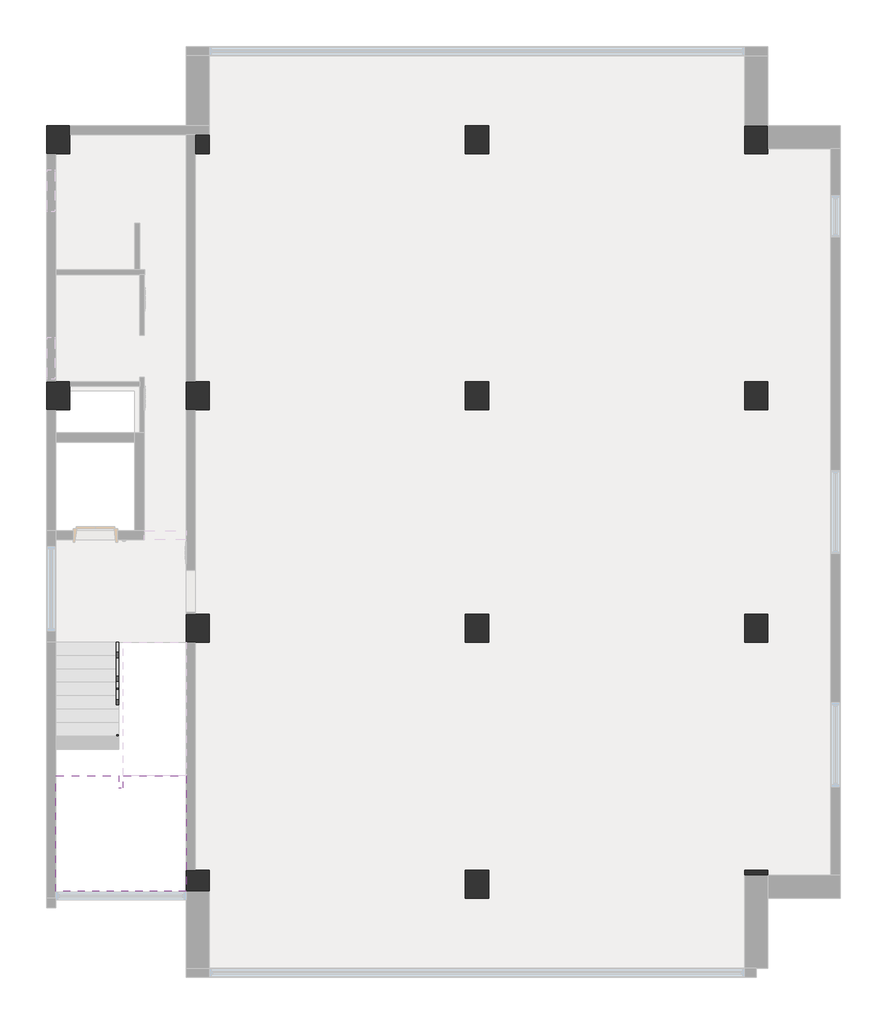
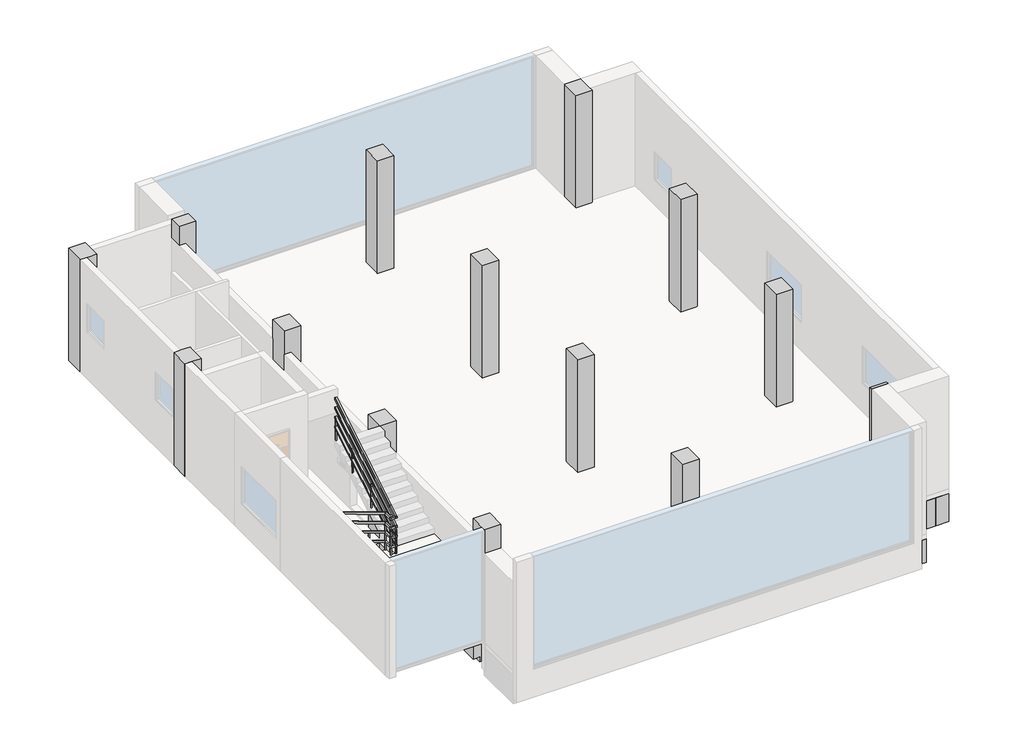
# One storey, part 2 of 3: 38 beams, 14 columns, 1 railing, 1 slab.
"""IFC4 building model written with IfcOpenShell, lengths in millimetres."""

from ifc_helpers import new_model, si_unit, frame, origin, place, context, project, spatial, polyline, outline, extrude, faceted_brep, transform, mapped, element, save
from components import railing_63d092a0

model = new_model("IFC4")

# Units and contexts
model_context = context("Model", 3, world=origin())
ifc_project = project(units=[si_unit("LENGTHUNIT", "METRE", prefix="MILLI")], contexts=[model_context])

# Site, building, storey
site = spatial("IfcSite", under=ifc_project)
building = spatial("IfcBuilding", under=site)
storey = spatial("IfcBuildingStorey", under=building, Name="2층", Elevation=3900.0)

# Beams
placement = place(None, origin())
element("IfcBeam", 1, ObjectType="BM100-구조 보 : BM100-구조 보 400x600", at=placement, inside=storey, context=model_context, shape_type="Brep", body=[
    faceted_brep([(3250.0, 100.0, 3750.0), (3250.0, -300.0, 3750.0), (8750.0, -300.0, 3750.0), (8750.0, 100.0, 3750.0), (5963.2625647, 100.0, 3750.0), (5663.2625647, 100.0, 3750.0), (3250.0, -300.0, 3150.0), (8750.0, -300.0, 3150.0), (3250.0, 100.0, 3150.0), (5663.2625647, 100.0, 3150.0), (5963.2625647, 100.0, 3150.0), (8750.0, 100.0, 3150.0)], [[[0, 1, 2, 3, 4, 5]], [[1, 6, 7, 2]], [[6, 8, 9, 10, 11, 7]], [[8, 0, 5, 4, 3, 11, 10, 9]], [[0, 8, 6, 1]], [[3, 2, 7, 11]]]),
])
element("IfcBeam", 2, ObjectType="BM100-구조 보 : BM100-구조 보 400x600", at=placement, inside=storey, context=model_context, shape_type="Brep", body=[
    faceted_brep([(14750.0, 100.0, 3750.0), (11963.2625647, 100.0, 3750.0), (11663.2625647, 100.0, 3750.0), (9250.0, 100.0, 3750.0), (9250.0, -300.0, 3750.0), (14750.0, -300.0, 3750.0), (14750.0, -300.0, 3150.0), (9250.0, -300.0, 3150.0), (9250.0, 100.0, 3150.0), (11663.2625647, 100.0, 3150.0), (11963.2625647, 100.0, 3150.0), (14750.0, 100.0, 3150.0)], [[[0, 1, 2, 3, 4, 5]], [[6, 5, 4, 7]], [[7, 8, 9, 10, 11, 6]], [[11, 10, 9, 8, 3, 2, 1, 0]], [[3, 8, 7, 4]], [[0, 5, 6, 11]]]),
])
element("IfcBeam", 3, ObjectType="BM100-구조 보 : BM100-구조 보 400x600", at=placement, inside=storey, context=model_context, shape_type="Brep", body=[
    faceted_brep([(14750.0, 5300.0, 3750.0), (14750.0, 5700.0, 3750.0), (11963.2625647, 5700.0, 3750.0), (11663.2625647, 5700.0, 3750.0), (9250.0, 5700.0, 3750.0), (9250.0, 5300.0, 3750.0), (11663.2625647, 5300.0, 3750.0), (11963.2625647, 5300.0, 3750.0), (14750.0, 5300.0, 3150.0), (9250.0, 5300.0, 3150.0), (11663.2625647, 5300.0, 3150.0), (11963.2625647, 5300.0, 3150.0), (14750.0, 5700.0, 3150.0), (9250.0, 5700.0, 3150.0), (11663.2625647, 5700.0, 3150.0), (11963.2625647, 5700.0, 3150.0)], [[[0, 1, 2, 3, 4, 5, 6, 7]], [[8, 0, 7, 6, 5, 9, 10, 11]], [[12, 8, 11, 10, 9, 13, 14, 15]], [[1, 12, 15, 14, 13, 4, 3, 2]], [[1, 0, 8, 12]], [[4, 13, 9, 5]]]),
])
element("IfcBeam", 4, ObjectType="BM100-구조 보 : BM100-구조 보 400x600", at=placement, inside=storey, context=model_context, shape_type="Brep", body=[
    faceted_brep([(14750.0, 10300.0, 3750.0), (14750.0, 10700.0, 3750.0), (11963.2625647, 10700.0, 3750.0), (11663.2625647, 10700.0, 3750.0), (9250.0, 10700.0, 3750.0), (9250.0, 10300.0, 3750.0), (11663.2625647, 10300.0, 3750.0), (11963.2625647, 10300.0, 3750.0), (14750.0, 10300.0, 3150.0), (9250.0, 10300.0, 3150.0), (11663.2625647, 10300.0, 3150.0), (11963.2625647, 10300.0, 3150.0), (14750.0, 10700.0, 3150.0), (9250.0, 10700.0, 3150.0), (11663.2625647, 10700.0, 3150.0), (11963.2625647, 10700.0, 3150.0)], [[[0, 1, 2, 3, 4, 5, 6, 7]], [[8, 0, 7, 6, 5, 9, 10, 11]], [[12, 8, 11, 10, 9, 13, 14, 15]], [[1, 12, 15, 14, 13, 4, 3, 2]], [[1, 0, 8, 12]], [[4, 13, 9, 5]]]),
])
element("IfcBeam", 5, ObjectType="BM100-구조 보 : BM100-구조 보 400x600", at=placement, inside=storey, context=model_context, shape_type="Brep", body=[
    faceted_brep([(9250.0, 16300.0, 3750.0), (9250.0, 15900.0, 3750.0), (11663.2625647, 15900.0, 3750.0), (11963.2625647, 15900.0, 3750.0), (14750.0, 15900.0, 3750.0), (14750.0, 16300.0, 3750.0), (9250.0, 15900.0, 3150.0), (11663.2625647, 15900.0, 3150.0), (11963.2625647, 15900.0, 3150.0), (14750.0, 15900.0, 3150.0), (9250.0, 16300.0, 3150.0), (14750.0, 16300.0, 3150.0)], [[[0, 1, 2, 3, 4, 5]], [[6, 7, 8, 9, 4, 3, 2, 1]], [[9, 8, 7, 6, 10, 11]], [[5, 11, 10, 0]], [[5, 4, 9, 11]], [[0, 10, 6, 1]]]),
])
element("IfcBeam", 6, ObjectType="BM100-구조 보 : BM100-구조 보 400x600", at=placement, inside=storey, context=model_context, shape_type="SweptSolid", body=[
    extrude(outline(polyline([(15250.0, 5800.0), (14850.0, 5800.0), (14850.0, 10200.0), (15250.0, 10200.0), (15250.0, 5800.0)])), frame((0.0, 0.0, 3150.0), z_axis=(0.0, 0.0, 1.0), x_axis=(1.0, 0.0, 0.0)), (0.0, 0.0, 1.0), 600.0),
])
element("IfcBeam", 7, ObjectType="BM100-구조 보 : BM100-구조 보 400x600", at=placement, inside=storey, context=model_context, shape_type="SweptSolid", body=[
    extrude(outline(polyline([(15250.0, 5200.0), (15250.0, 300.0), (14850.0, 300.0), (14850.0, 5200.0), (15250.0, 5200.0)])), frame((0.0, 0.0, 3150.0), z_axis=(0.0, 0.0, 1.0), x_axis=(1.0, 0.0, 0.0)), (0.0, 0.0, 1.0), 600.0),
])
element("IfcBeam", 8, ObjectType="BM100-구조 보 : BM100-구조 보 300x600", at=placement, inside=storey, context=model_context, shape_type="SweptSolid", body=[
    extrude(outline(polyline([(11663.2625647, 5300.0), (11963.2625647, 5300.0), (11963.2625647, 100.0), (11663.2625647, 100.0), (11663.2625647, 5300.0)])), frame((0.0, 0.0, 3150.0), z_axis=(0.0, 0.0, 1.0), x_axis=(1.0, 0.0, 0.0)), (0.0, 0.0, 1.0), 600.0),
])
element("IfcBeam", 9, ObjectType="BM100-구조 보 : BM100-구조 보 300x600", at=placement, inside=storey, context=model_context, shape_type="SweptSolid", body=[
    extrude(outline(polyline([(11963.2625647, 5700.0), (11663.2625647, 5700.0), (11663.2625647, 10300.0), (11963.2625647, 10300.0), (11963.2625647, 5700.0)])), frame((0.0, 0.0, 3150.0), z_axis=(0.0, 0.0, 1.0), x_axis=(1.0, 0.0, 0.0)), (0.0, 0.0, 1.0), 600.0),
])
element("IfcBeam", 10, ObjectType="BM100-구조 보 : BM100-구조 보 300x600", at=placement, inside=storey, context=model_context, shape_type="SweptSolid", body=[
    extrude(outline(polyline([(11963.2625647, 10700.0), (11663.2625647, 10700.0), (11663.2625647, 15900.0), (11963.2625647, 15900.0), (11963.2625647, 10700.0)])), frame((0.0, 0.0, 3150.0), z_axis=(0.0, 0.0, 1.0), x_axis=(1.0, 0.0, 0.0)), (0.0, 0.0, 1.0), 600.0),
])
element("IfcBeam", 11, ObjectType="BM100-구조 보 : BM100-구조 보 400x900", at=placement, inside=storey, context=model_context, shape_type="SweptSolid", body=[
    extrude(outline(polyline([(9250.0, 300.0), (8850.0, 300.0), (8850.0, 5200.0), (9250.0, 5200.0), (9250.0, 300.0)])), frame((0.0, 0.0, 2850.0), z_axis=(0.0, 0.0, 1.0), x_axis=(1.0, 0.0, 0.0)), (0.0, 0.0, 1.0), 900.0),
])
element("IfcBeam", 12, ObjectType="BM100-구조 보 : BM100-구조 보 400x900", at=placement, inside=storey, context=model_context, shape_type="SweptSolid", body=[
    extrude(outline(polyline([(9250.0, 5800.0), (8850.0, 5800.0), (8850.0, 10200.0), (9250.0, 10200.0), (9250.0, 5800.0)])), frame((0.0, 0.0, 2850.0), z_axis=(0.0, 0.0, 1.0), x_axis=(1.0, 0.0, 0.0)), (0.0, 0.0, 1.0), 900.0),
])
element("IfcBeam", 13, ObjectType="BM100-구조 보 : BM100-구조 보 400x900", at=placement, inside=storey, context=model_context, shape_type="SweptSolid", body=[
    extrude(outline(polyline([(9250.0, 10800.0), (8850.0, 10800.0), (8850.0, 15700.0), (9250.0, 15700.0), (9250.0, 10800.0)])), frame((0.0, 0.0, 2850.0), z_axis=(0.0, 0.0, 1.0), x_axis=(1.0, 0.0, 0.0)), (0.0, 0.0, 1.0), 900.0),
])
element("IfcBeam", 14, ObjectType="BM100-구조 보 : BM100-구조 보 400x900", at=placement, inside=storey, context=model_context, shape_type="Brep", body=[
    faceted_brep([(2750.0, 5800.0, 3750.0), (3150.0, 5800.0, 3750.0), (3150.0, 10200.0, 3750.0), (2750.0, 10200.0, 3750.0), (2750.0, 7600.0, 3750.0), (2850.0, 7600.0, 3750.0), (2850.0, 7400.0, 3750.0), (2750.0, 7400.0, 3750.0), (3150.0, 5800.0, 2850.0), (3150.0, 10200.0, 2850.0), (2750.0, 5800.0, 2850.0), (2750.0, 10200.0, 2850.0), (2750.0, 7400.0, 3300.0), (2750.0, 7600.0, 3300.0), (2850.0, 7600.0, 3300.0), (2850.0, 7400.0, 3300.0)], [[[0, 1, 2, 3, 4, 5, 6, 7]], [[1, 8, 9, 2]], [[8, 10, 11, 9]], [[10, 0, 7, 12, 13, 4, 3, 11]], [[14, 5, 4, 13]], [[15, 12, 7, 6]], [[15, 14, 13, 12]], [[14, 15, 6, 5]], [[1, 0, 10, 8]], [[3, 2, 9, 11]]]),
])
element("IfcBeam", 15, ObjectType="BM100-구조 보 : BM100-구조 보 400x900", at=placement, inside=storey, context=model_context, shape_type="SweptSolid", body=[
    extrude(outline(polyline([(3750.0, 3150.0), (3750.0, 2750.0), (3000.0, 2750.0), (3000.0, 2950.0), (2850.0, 2950.0), (2850.0, 3150.0), (3750.0, 3150.0)])), frame((0.0, 300.0, 0.0), z_axis=(0.0, 1.0, 0.0), x_axis=(0.0, 0.0, 1.0)), (0.0, 0.0, 1.0), 4900.0),
])
element("IfcBeam", 16, ObjectType="BM100-구조 보 : BM100-구조 보 400x900", at=placement, inside=storey, context=model_context, shape_type="Brep", body=[
    faceted_brep([(2750.0, 10800.0, 3750.0), (3150.0, 10800.0, 3750.0), (3150.0, 15700.0, 3750.0), (2750.0, 15700.0, 3750.0), (2750.0, 13200.0, 3750.0), (2750.0, 13100.0, 3750.0), (3150.0, 10800.0, 2850.0), (3150.0, 15700.0, 2850.0), (2750.0, 10800.0, 2850.0), (2750.0, 15700.0, 2850.0)], [[[0, 1, 2, 3, 4, 5]], [[1, 6, 7, 2]], [[6, 8, 9, 7]], [[8, 0, 5, 4, 3, 9]], [[1, 0, 8, 6]], [[3, 2, 7, 9]]]),
])
element("IfcBeam", 17, ObjectType="BM100-구조 보 : BM100-구조 보 400x600", at=placement, inside=storey, context=model_context, shape_type="Brep", body=[
    faceted_brep([(8750.0, 5300.0, 3750.0), (8750.0, 5700.0, 3750.0), (5963.2625647, 5700.0, 3750.0), (5663.2625647, 5700.0, 3750.0), (3250.0, 5700.0, 3750.0), (3250.0, 5300.0, 3750.0), (5663.2625647, 5300.0, 3750.0), (5963.2625647, 5300.0, 3750.0), (8750.0, 5300.0, 3150.0), (3250.0, 5300.0, 3150.0), (5663.2625647, 5300.0, 3150.0), (5963.2625647, 5300.0, 3150.0), (8750.0, 5700.0, 3150.0), (3250.0, 5700.0, 3150.0), (5663.2625647, 5700.0, 3150.0), (5963.2625647, 5700.0, 3150.0)], [[[0, 1, 2, 3, 4, 5, 6, 7]], [[8, 0, 7, 6, 5, 9, 10, 11]], [[12, 8, 11, 10, 9, 13, 14, 15]], [[1, 12, 15, 14, 13, 4, 3, 2]], [[1, 0, 8, 12]], [[5, 4, 13, 9]]]),
])
element("IfcBeam", 18, ObjectType="BM100-구조 보 : BM100-구조 보 400x600", at=placement, inside=storey, context=model_context, shape_type="Brep", body=[
    faceted_brep([(8750.0, 10300.0, 3750.0), (8750.0, 10700.0, 3750.0), (5963.2625647, 10700.0, 3750.0), (5663.2625647, 10700.0, 3750.0), (3250.0, 10700.0, 3750.0), (3250.0, 10300.0, 3750.0), (5663.2625647, 10300.0, 3750.0), (5963.2625647, 10300.0, 3750.0), (8750.0, 10300.0, 3150.0), (3250.0, 10300.0, 3150.0), (5663.2625647, 10300.0, 3150.0), (5963.2625647, 10300.0, 3150.0), (8750.0, 10700.0, 3150.0), (3250.0, 10700.0, 3150.0), (5663.2625647, 10700.0, 3150.0), (5963.2625647, 10700.0, 3150.0)], [[[0, 1, 2, 3, 4, 5, 6, 7]], [[8, 0, 7, 6, 5, 9, 10, 11]], [[12, 8, 11, 10, 9, 13, 14, 15]], [[1, 12, 15, 14, 13, 4, 3, 2]], [[1, 0, 8, 12]], [[5, 4, 13, 9]]]),
])
element("IfcBeam", 19, ObjectType="BM100-구조 보 : BM100-구조 보 300x600", at=placement, inside=storey, context=model_context, shape_type="SweptSolid", body=[
    extrude(outline(polyline([(5663.2625647, 5300.0), (5963.2625647, 5300.0), (5963.2625647, 100.0), (5663.2625647, 100.0), (5663.2625647, 5300.0)])), frame((0.0, 0.0, 3150.0), z_axis=(0.0, 0.0, 1.0), x_axis=(1.0, 0.0, 0.0)), (0.0, 0.0, 1.0), 600.0),
])
element("IfcBeam", 20, ObjectType="BM100-구조 보 : BM100-구조 보 300x600", at=placement, inside=storey, context=model_context, shape_type="SweptSolid", body=[
    extrude(outline(polyline([(5963.2625647, 5700.0), (5663.2625647, 5700.0), (5663.2625647, 10300.0), (5963.2625647, 10300.0), (5963.2625647, 5700.0)])), frame((0.0, 0.0, 3150.0), z_axis=(0.0, 0.0, 1.0), x_axis=(1.0, 0.0, 0.0)), (0.0, 0.0, 1.0), 600.0),
])
element("IfcBeam", 21, ObjectType="BM100-구조 보 : BM100-구조 보 300x600", at=placement, inside=storey, context=model_context, shape_type="SweptSolid", body=[
    extrude(outline(polyline([(5963.2625647, 10700.0), (5663.2625647, 10700.0), (5663.2625647, 15900.0), (5963.2625647, 15900.0), (5963.2625647, 10700.0)])), frame((0.0, 0.0, 3150.0), z_axis=(0.0, 0.0, 1.0), x_axis=(1.0, 0.0, 0.0)), (0.0, 0.0, 1.0), 600.0),
])
element("IfcBeam", 22, ObjectType="BM100-구조 보 : BM100-구조 보 400x600", at=placement, inside=storey, context=model_context, shape_type="Brep", body=[
    faceted_brep([(3250.0, 16300.0, 3750.0), (3250.0, 15900.0, 3750.0), (5663.2625647, 15900.0, 3750.0), (5963.2625647, 15900.0, 3750.0), (8750.0, 15900.0, 3750.0), (8750.0, 16300.0, 3750.0), (3250.0, 15900.0, 3150.0), (5663.2625647, 15900.0, 3150.0), (5963.2625647, 15900.0, 3150.0), (8750.0, 15900.0, 3150.0), (3250.0, 16300.0, 3150.0), (8750.0, 16300.0, 3150.0)], [[[0, 1, 2, 3, 4, 5]], [[1, 6, 7, 8, 9, 4, 3, 2]], [[6, 10, 11, 9, 8, 7]], [[10, 0, 5, 11]], [[0, 10, 6, 1]], [[5, 4, 9, 11]]]),
])
element("IfcBeam", 23, ObjectType="BM100-구조 보 : BM100-구조 보 400x600", at=placement, inside=storey, context=model_context, shape_type="SweptSolid", body=[
    extrude(outline(polyline([(14850.0, 15700.0), (15250.0, 15700.0), (15250.0, 10800.0), (14850.0, 10800.0), (14850.0, 15700.0)])), frame((0.0, 0.0, 3150.0), z_axis=(0.0, 0.0, 1.0), x_axis=(1.0, 0.0, 0.0)), (0.0, 0.0, 1.0), 600.0),
])
element("IfcBeam", 24, ObjectType="BM100-구조 보 : BM100-구조 보 400x900", at=placement, inside=storey, context=model_context, shape_type="Brep", body=[
    faceted_brep([(9250.0, -300.0, 3750.0), (8850.0, -300.0, 3750.0), (8850.0, -1400.0, 3750.0), (9250.0, -1800.0, 3750.0), (9250.0, -1400.0, 3750.0), (9250.0, -300.0, 2850.0), (9250.0, -1800.0, 2850.0), (8850.0, -300.0, 2850.0), (8850.0, -1400.0, 2850.0)], [[[0, 1, 2, 3, 4]], [[5, 0, 4, 3, 6]], [[7, 5, 6, 8]], [[1, 7, 8, 2]], [[1, 0, 5, 7]], [[2, 8, 6, 3]]]),
])
element("IfcBeam", 25, ObjectType="BM100-구조 보 : BM100-구조 보 400x900", at=placement, inside=storey, context=model_context, shape_type="Brep", body=[
    faceted_brep([(14821.5298193, -1400.0, 2994.1216086), (14802.9411221, -1400.0, 3750.0), (14799.4035473, -1400.0, 3893.8495831), (14799.4035473, -1800.0, 3893.8495831), (14802.9411221, -1800.0, 3750.0), (14821.5298193, -1800.0, 2994.1216086), (9050.0, -1400.0, 3752.459218), (9050.0, -1800.0, 3752.459218), (9050.0, -1800.0, 3750.0), (9250.0, -1800.0, 3750.0), (9250.0, -1800.0, 2857.1055462), (9250.0, -1400.0, 2857.1055462), (9250.0, -1400.0, 3750.0), (9050.0, -1400.0, 3750.0)], [[[0, 1, 2, 3, 4, 5]], [[3, 2, 6, 7]], [[5, 4, 3, 7, 8, 9, 10]], [[0, 5, 10, 11]], [[2, 1, 0, 11, 12, 13, 6]], [[9, 8, 13, 12]], [[9, 12, 11, 10]], [[7, 6, 13, 8]]]),
])
element("IfcBeam", 26, ObjectType="BM100-구조 보 : BM100-구조 보 400x900", at=placement, inside=storey, context=model_context, shape_type="SweptSolid", body=[
    extrude(outline(polyline([(14849.5, -1800.0), (14849.5, -305.5), (15249.5, -305.5), (15249.5, -1800.0), (14849.5, -1800.0)])), frame((0.0, 0.0, 3000.0), z_axis=(0.0, 0.0, 1.0), x_axis=(1.0, 0.0, 0.0)), (0.0, 0.0, 1.0), 750.0),
])
element("IfcBeam", 27, ObjectType="BM100-구조 보 : BM100-구조 보 400x900", at=placement, inside=storey, context=model_context, shape_type="Brep", body=[
    faceted_brep([(16800.0, 5700.0, 3750.0), (16400.0, 5700.0, 3750.0), (16400.0, 5300.0, 3750.0), (16400.0, 100.0, 3750.0), (16400.0, -300.0, 3750.0), (16800.0, -300.0, 3750.0), (16400.0, 5700.0, 3150.0), (16400.0, 5700.0, 2850.0), (16400.0, 100.0, 2850.0), (16400.0, -300.0, 2850.0), (16800.0, 5700.0, 2850.0), (16800.0, -300.0, 2850.0)], [[[0, 1, 2, 3, 4, 5]], [[1, 6, 7, 8, 9, 4, 3, 2]], [[7, 10, 11, 9, 8]], [[10, 0, 5, 11]], [[5, 4, 9, 11]], [[1, 0, 10, 7, 6]]]),
])
element("IfcBeam", 28, ObjectType="BM100-구조 보 : BM100-구조 보 400x900", at=placement, inside=storey, context=model_context, shape_type="SweptSolid", body=[
    extrude(outline(polyline([(15250.0, -300.0), (15250.0, 100.0), (16400.0, 100.0), (16400.0, -300.0), (15250.0, -300.0)])), frame((0.0, 0.0, 2850.0), z_axis=(0.0, 0.0, 1.0), x_axis=(1.0, 0.0, 0.0)), (0.0, 0.0, 1.0), 900.0),
])
element("IfcBeam", 29, ObjectType="BM100-구조 보 : BM100-구조 보 400x600", at=placement, inside=storey, context=model_context, shape_type="SweptSolid", body=[
    extrude(outline(polyline([(15250.0, 5300.0), (15250.0, 5700.0), (16400.0, 5700.0), (16400.0, 5300.0), (15250.0, 5300.0)])), frame((0.0, 0.0, 3150.0), z_axis=(0.0, 0.0, 1.0), x_axis=(1.0, 0.0, 0.0)), (0.0, 0.0, 1.0), 600.0),
])
element("IfcBeam", 30, ObjectType="BM100-구조 보 : BM100-구조 보 400x600", at=placement, inside=storey, context=model_context, shape_type="SweptSolid", body=[
    extrude(outline(polyline([(15250.0, 10300.0), (15250.0, 10700.0), (16400.0, 10700.0), (16400.0, 10300.0), (15250.0, 10300.0)])), frame((0.0, 0.0, 3150.0), z_axis=(0.0, 0.0, 1.0), x_axis=(1.0, 0.0, 0.0)), (0.0, 0.0, 1.0), 600.0),
])
element("IfcBeam", 31, ObjectType="BM100-구조 보 : BM100-구조 보 400x900", at=placement, inside=storey, context=model_context, shape_type="Brep", body=[
    faceted_brep([(16800.0, 15900.0, 3750.0), (16800.0, 16300.0, 3750.0), (15250.0, 16300.0, 3750.0), (15250.0, 15900.0, 3750.0), (16400.0, 15900.0, 3750.0), (16800.0, 15900.0, 2850.0), (15250.0, 15900.0, 2850.0), (16400.0, 15900.0, 2850.0), (16800.0, 16300.0, 2850.0), (15250.0, 16300.0, 2850.0)], [[[0, 1, 2, 3, 4]], [[5, 0, 4, 3, 6, 7]], [[8, 5, 7, 6, 9]], [[1, 8, 9, 2]], [[3, 2, 9, 6]], [[1, 0, 5, 8]]]),
])
element("IfcBeam", 32, ObjectType="BM100-구조 보 : BM100-구조 보 400x900", at=placement, inside=storey, context=model_context, shape_type="Brep", body=[
    faceted_brep([(16800.0, 10700.0, 3750.0), (16400.0, 10700.0, 3750.0), (16400.0, 10300.0, 3750.0), (16400.0, 5700.0, 3750.0), (16800.0, 5700.0, 3750.0), (16400.0, 10700.0, 3150.0), (16400.0, 10700.0, 2850.0), (16400.0, 5700.0, 2850.0), (16800.0, 10700.0, 2850.0), (16800.0, 5700.0, 2850.0)], [[[0, 1, 2, 3, 4]], [[1, 5, 6, 7, 3, 2]], [[6, 8, 9, 7]], [[8, 0, 4, 9]], [[1, 0, 8, 6, 5]], [[4, 3, 7, 9]]]),
])
element("IfcBeam", 33, ObjectType="BM100-구조 보 : BM100-구조 보 400x900", at=placement, inside=storey, context=model_context, shape_type="SweptSolid", body=[
    extrude(outline(polyline([(15900.0, 2850.0), (10300.0, 2850.0), (10300.0, 3150.0), (10700.0, 3150.0), (10700.0, 3750.0), (15900.0, 3750.0), (15900.0, 2850.0)])), frame((16400.0, 0.0, 0.0), z_axis=(1.0, 0.0, 0.0), x_axis=(0.0, 1.0, 0.0)), (0.0, 0.0, 1.0), 400.0),
])
element("IfcBeam", 34, ObjectType="BM100-구조 보 : BM100-구조 보 400x900", at=placement, inside=storey, context=model_context, shape_type="Brep", body=[
    faceted_brep([(3150.0, 17800.0, 3750.0), (2750.0, 17800.0, 3750.0), (2750.0, 16300.0, 3750.0), (2950.0, 16300.0, 3750.0), (3150.0, 16300.0, 3750.0), (3150.0, 17400.0, 3750.0), (3150.0, 17800.0, 2850.0), (3150.0, 16300.0, 2850.0), (3150.0, 17400.0, 2850.0), (2750.0, 17800.0, 2850.0), (2750.0, 16300.0, 2850.0)], [[[0, 1, 2, 3, 4, 5]], [[6, 0, 5, 4, 7, 8]], [[9, 6, 8, 7, 10]], [[1, 9, 10, 2]], [[1, 0, 6, 9]], [[4, 3, 2, 10, 7]]]),
])
element("IfcBeam", 35, ObjectType="BM100-구조 보 : BM100-구조 보 400x900", at=placement, inside=storey, context=model_context, shape_type="Brep", body=[
    faceted_brep([(9250.0, 17400.0, 3750.0), (9250.0, 17800.0, 3750.0), (3150.0, 17800.0, 3750.0), (3150.0, 17400.0, 3750.0), (8850.0, 17400.0, 3750.0), (9250.0, 17800.0, 2850.0), (3150.0, 17800.0, 2850.0), (9250.0, 17400.0, 2850.0), (8850.0, 17400.0, 2850.0), (3150.0, 17400.0, 2850.0)], [[[0, 1, 2, 3, 4]], [[1, 5, 6, 2]], [[5, 7, 8, 9, 6]], [[7, 0, 4, 3, 9, 8]], [[1, 0, 7, 5]], [[3, 2, 6, 9]]]),
])
element("IfcBeam", 36, ObjectType="BM100-구조 보 : BM100-구조 보 400x900", at=placement, inside=storey, context=model_context, shape_type="SweptSolid", body=[
    extrude(outline(polyline([(8850.0, 17400.0), (9250.0, 17400.0), (9250.0, 16300.0), (8850.0, 16300.0), (8850.0, 17400.0)])), frame((0.0, 0.0, 2850.0), z_axis=(0.0, 0.0, 1.0), x_axis=(1.0, 0.0, 0.0)), (0.0, 0.0, 1.0), 900.0),
])
element("IfcBeam", 37, ObjectType="BM100-구조 보 : BM100-구조 보 400x900", at=placement, inside=storey, context=model_context, shape_type="Brep", body=[
    faceted_brep([(15250.0, 17400.0, 3750.0), (15250.0, 17800.0, 3750.0), (9250.0, 17800.0, 3750.0), (9250.0, 17400.0, 3750.0), (14850.0, 17400.0, 3750.0), (15250.0, 17800.0, 2850.0), (9250.0, 17800.0, 2850.0), (15250.0, 17400.0, 2850.0), (14850.0, 17400.0, 2850.0), (9250.0, 17400.0, 2850.0)], [[[0, 1, 2, 3, 4]], [[1, 5, 6, 2]], [[5, 7, 8, 9, 6]], [[7, 0, 4, 3, 9, 8]], [[1, 0, 7, 5]], [[3, 2, 6, 9]]]),
])
element("IfcBeam", 38, ObjectType="BM100-구조 보 : BM100-구조 보 400x900", at=placement, inside=storey, context=model_context, shape_type="SweptSolid", body=[
    extrude(outline(polyline([(15250.0, 16300.0), (14850.0, 16300.0), (14850.0, 17400.0), (15250.0, 17400.0), (15250.0, 16300.0)])), frame((0.0, 0.0, 2850.0), z_axis=(0.0, 0.0, 1.0), x_axis=(1.0, 0.0, 0.0)), (0.0, 0.0, 1.0), 900.0),
])

# Columns
element("IfcColumn", 39, ObjectType="CL100-구조 기둥 : CL100-구조 기둥_500x600", at=placement, inside=storey, context=model_context, shape_type="Brep", body=[
    faceted_brep([(-250.0, 10200.0, 3900.0), (-250.0, 10800.0, 3900.0), (-50.0, 10800.0, 3900.0), (250.0, 10800.0, 3900.0), (250.0, 10700.0, 3900.0), (250.0, 10200.0, 3900.0), (-50.0, 10200.0, 3900.0), (-250.0, 10200.0, 7500.0), (-250.0, 10800.0, 7500.0), (-50.0, 10800.0, 7500.0), (250.0, 10800.0, 7500.0), (250.0, 10800.0, 7350.0), (250.0, 10700.0, 7500.0), (250.0, 10200.0, 7500.0), (-50.0, 10200.0, 7500.0)], [[[0, 1, 2, 3, 4, 5, 6]], [[7, 8, 1, 0]], [[8, 9, 10, 11, 3, 2, 1]], [[10, 12, 13, 5, 4, 3, 11]], [[13, 14, 7, 0, 6, 5]], [[7, 14, 13, 12, 10, 9, 8]]]),
])
element("IfcColumn", 40, ObjectType="CL100-구조 기둥 : CL100-구조 기둥_500x600", at=placement, inside=storey, context=model_context, shape_type="Brep", body=[
    faceted_brep([(2750.0, 300.0, 3900.0), (2950.0, 300.0, 3900.0), (3250.0, 300.0, 3900.0), (3250.0, -150.0, 3900.0), (2750.0, -150.0, 3900.0), (2750.0, -300.0, 7500.0), (2750.0, 300.0, 7500.0), (2750.0, 300.0, 7350.0), (2750.0, 300.0, 6900.0), (2750.0, -150.0, 6750.0), (2750.0, -300.0, 6750.0), (2750.0, -300.0, 7350.0), (3250.0, 300.0, 7500.0), (3250.0, 300.0, 7350.0), (3250.0, -300.0, 7500.0), (3250.0, -300.0, 7350.0), (3250.0, -300.0, 6750.0), (3250.0, -150.0, 6750.0)], [[[0, 1, 2, 3, 4]], [[5, 6, 7, 8, 0, 4, 9, 10, 11]], [[2, 1, 0, 8, 7, 6, 12, 13]], [[2, 13, 12, 14, 15, 16, 17, 3]], [[14, 5, 11, 10, 16, 15]], [[6, 5, 14, 12]], [[9, 17, 16, 10]], [[17, 9, 4, 3]]]),
])
element("IfcColumn", 41, ObjectType="CL100-구조 기둥 : CL100-구조 기둥_500x600", at=placement, inside=storey, context=model_context, shape_type="Brep", body=[
    faceted_brep([(8750.0, -300.0, 3900.0), (8750.0, 300.0, 3900.0), (9250.0, 300.0, 3900.0), (9250.0, -300.0, 3900.0), (8750.0, -300.0, 7500.0), (8750.0, 300.0, 7500.0), (8750.0, 300.0, 7350.0), (8750.0, -300.0, 7350.0), (9250.0, 300.0, 7500.0), (9250.0, 300.0, 7350.0), (9250.0, -300.0, 7500.0), (9250.0, -300.0, 7350.0)], [[[0, 1, 2, 3]], [[4, 5, 6, 1, 0, 7]], [[5, 8, 9, 2, 1, 6]], [[8, 10, 11, 3, 2, 9]], [[10, 4, 7, 0, 3, 11]], [[4, 10, 8, 5]]]),
])
element("IfcColumn", 42, ObjectType="CL100-구조 기둥 : CL100-구조 기둥_500x600", at=placement, inside=storey, context=model_context, shape_type="Brep", body=[
    faceted_brep([(14750.0, 300.0, 3900.0), (15250.0, 300.0, 3900.0), (15250.0, 200.0, 3900.0), (14750.0, 200.0, 3900.0), (14750.0, 300.0, 7500.0), (14750.0, 300.0, 7350.0), (14750.0, 200.0, 7500.0), (15250.0, 300.0, 7500.0), (15250.0, 300.0, 7350.0), (15250.0, 200.0, 7500.0)], [[[0, 1, 2, 3]], [[4, 5, 0, 3, 6]], [[1, 0, 5, 4, 7, 8]], [[1, 8, 7, 9, 2]], [[7, 4, 6, 9]], [[3, 2, 9, 6]]]),
])
element("IfcColumn", 43, ObjectType="CL100-구조 기둥 : CL100-구조 기둥_500x600", at=placement, inside=storey, context=model_context, shape_type="Brep", body=[
    faceted_brep([(2750.0, 5200.0, 3900.0), (2750.0, 5800.0, 3900.0), (2950.0, 5800.0, 3900.0), (3250.0, 5800.0, 3900.0), (3250.0, 5200.0, 3900.0), (2950.0, 5200.0, 3900.0), (2750.0, 5200.0, 7500.0), (2750.0, 5800.0, 7500.0), (2750.0, 5800.0, 7350.0), (2750.0, 5800.0, 6750.0), (2750.0, 5200.0, 6900.0), (2750.0, 5200.0, 7350.0), (3250.0, 5800.0, 7500.0), (3250.0, 5800.0, 7350.0), (3250.0, 5200.0, 7500.0), (3250.0, 5200.0, 7350.0)], [[[0, 1, 2, 3, 4, 5]], [[6, 7, 8, 9, 1, 0, 10, 11]], [[7, 12, 13, 3, 2, 1, 9, 8]], [[12, 14, 15, 4, 3, 13]], [[14, 6, 11, 10, 0, 5, 4, 15]], [[6, 14, 12, 7]]]),
])
element("IfcColumn", 44, ObjectType="CL100-구조 기둥 : CL100-구조 기둥_500x600", at=placement, inside=storey, context=model_context, shape_type="Brep", body=[
    faceted_brep([(2750.0, 10200.0, 3900.0), (2750.0, 10800.0, 3900.0), (2950.0, 10800.0, 3900.0), (3250.0, 10800.0, 3900.0), (3250.0, 10200.0, 3900.0), (2950.0, 10200.0, 3900.0), (2750.0, 10200.0, 7500.0), (2750.0, 10800.0, 7500.0), (2750.0, 10800.0, 7350.0), (2750.0, 10800.0, 6900.0), (2750.0, 10200.0, 6750.0), (2750.0, 10200.0, 7350.0), (3250.0, 10800.0, 7500.0), (3250.0, 10800.0, 7350.0), (3250.0, 10200.0, 7500.0), (3250.0, 10200.0, 7350.0)], [[[0, 1, 2, 3, 4, 5]], [[6, 7, 8, 9, 1, 0, 10, 11]], [[7, 12, 13, 3, 2, 1, 9, 8]], [[12, 14, 15, 4, 3, 13]], [[14, 6, 11, 10, 0, 5, 4, 15]], [[6, 14, 12, 7]]]),
])
element("IfcColumn", 45, ObjectType="CL100-구조 기둥 : CL100-구조 기둥_500x600", at=placement, inside=storey, context=model_context, shape_type="Brep", body=[
    faceted_brep([(8750.0, 5200.0, 3900.0), (8750.0, 5800.0, 3900.0), (9250.0, 5800.0, 3900.0), (9250.0, 5200.0, 3900.0), (8750.0, 5200.0, 7500.0), (8750.0, 5800.0, 7500.0), (8750.0, 5800.0, 7350.0), (8750.0, 5200.0, 7350.0), (9250.0, 5800.0, 7500.0), (9250.0, 5800.0, 7350.0), (9250.0, 5200.0, 7500.0), (9250.0, 5200.0, 7350.0)], [[[0, 1, 2, 3]], [[4, 5, 6, 1, 0, 7]], [[5, 8, 9, 2, 1, 6]], [[8, 10, 11, 3, 2, 9]], [[10, 4, 7, 0, 3, 11]], [[4, 10, 8, 5]]]),
])
element("IfcColumn", 46, ObjectType="CL100-구조 기둥 : CL100-구조 기둥_500x600", at=placement, inside=storey, context=model_context, shape_type="Brep", body=[
    faceted_brep([(8750.0, 10200.0, 3900.0), (8750.0, 10800.0, 3900.0), (9250.0, 10800.0, 3900.0), (9250.0, 10200.0, 3900.0), (8750.0, 10200.0, 7500.0), (8750.0, 10800.0, 7500.0), (8750.0, 10800.0, 7350.0), (8750.0, 10200.0, 7350.0), (9250.0, 10800.0, 7500.0), (9250.0, 10800.0, 7350.0), (9250.0, 10200.0, 7500.0), (9250.0, 10200.0, 7350.0)], [[[0, 1, 2, 3]], [[4, 5, 6, 1, 0, 7]], [[5, 8, 9, 2, 1, 6]], [[8, 10, 11, 3, 2, 9]], [[10, 4, 7, 0, 3, 11]], [[4, 10, 8, 5]]]),
])
element("IfcColumn", 47, ObjectType="CL100-구조 기둥 : CL100-구조 기둥_500x600", at=placement, inside=storey, context=model_context, shape_type="Brep", body=[
    faceted_brep([(14750.0, 5200.0, 3900.0), (14750.0, 5800.0, 3900.0), (15250.0, 5800.0, 3900.0), (15250.0, 5200.0, 3900.0), (14750.0, 5200.0, 7500.0), (14750.0, 5800.0, 7500.0), (14750.0, 5800.0, 7350.0), (14750.0, 5200.0, 7350.0), (15250.0, 5800.0, 7500.0), (15250.0, 5800.0, 7350.0), (15250.0, 5200.0, 7500.0), (15250.0, 5200.0, 7350.0)], [[[0, 1, 2, 3]], [[4, 5, 6, 1, 0, 7]], [[5, 8, 9, 2, 1, 6]], [[8, 10, 11, 3, 2, 9]], [[10, 4, 7, 0, 3, 11]], [[4, 10, 8, 5]]]),
])
element("IfcColumn", 48, ObjectType="CL100-구조 기둥 : CL100-구조 기둥_500x600", at=placement, inside=storey, context=model_context, shape_type="Brep", body=[
    faceted_brep([(14750.0, 10200.0, 3900.0), (14750.0, 10800.0, 3900.0), (15250.0, 10800.0, 3900.0), (15250.0, 10200.0, 3900.0), (14750.0, 10200.0, 7500.0), (14750.0, 10800.0, 7500.0), (14750.0, 10800.0, 7350.0), (14750.0, 10200.0, 7350.0), (15250.0, 10800.0, 7500.0), (15250.0, 10800.0, 7350.0), (15250.0, 10200.0, 7500.0), (15250.0, 10200.0, 7350.0)], [[[0, 1, 2, 3]], [[4, 5, 6, 1, 0, 7]], [[5, 8, 9, 2, 1, 6]], [[8, 10, 11, 3, 2, 9]], [[10, 4, 7, 0, 3, 11]], [[4, 10, 8, 5]]]),
])
element("IfcColumn", 49, ObjectType="CL100-구조 기둥 : CL100-구조 기둥_500x600", at=placement, inside=storey, context=model_context, shape_type="Brep", body=[
    faceted_brep([(3250.0, 16100.0, 3900.0), (3250.0, 15700.0, 3900.0), (2950.0, 15700.0, 3900.0), (2950.0, 16100.0, 3900.0), (2750.0, 15700.0, 7500.0), (2750.0, 16100.0, 7500.0), (2750.0, 16100.0, 6900.0), (2750.0, 15700.0, 6900.0), (2750.0, 15700.0, 7350.0), (3250.0, 15700.0, 7500.0), (3250.0, 15700.0, 7350.0), (3250.0, 16100.0, 7350.0), (3250.0, 16100.0, 7500.0), (2950.0, 15700.0, 6900.0), (2950.0, 16100.0, 6900.0)], [[[0, 1, 2, 3]], [[4, 5, 6, 7, 8]], [[9, 10, 1, 0, 11, 12]], [[1, 10, 9, 4, 8, 7, 13, 2]], [[4, 9, 12, 5]], [[12, 11, 0, 3, 14, 6, 5]], [[13, 14, 3, 2]], [[14, 13, 7, 6]]]),
])
element("IfcColumn", 50, ObjectType="CL100-구조 기둥 : CL100-구조 기둥_500x600", at=placement, inside=storey, context=model_context, shape_type="Brep", body=[
    faceted_brep([(8750.0, 15700.0, 3900.0), (8750.0, 16300.0, 3900.0), (9250.0, 16300.0, 3900.0), (9250.0, 15700.0, 3900.0), (8750.0, 15700.0, 7500.0), (8750.0, 16300.0, 7500.0), (8750.0, 16300.0, 7350.0), (8750.0, 15700.0, 7350.0), (9250.0, 16300.0, 7500.0), (9250.0, 16300.0, 7350.0), (9250.0, 15700.0, 7500.0), (9250.0, 15700.0, 7350.0)], [[[0, 1, 2, 3]], [[4, 5, 6, 1, 0, 7]], [[5, 8, 9, 2, 1, 6]], [[8, 10, 11, 3, 2, 9]], [[10, 4, 7, 0, 3, 11]], [[4, 10, 8, 5]]]),
])
element("IfcColumn", 51, ObjectType="CL100-구조 기둥 : CL100-구조 기둥_500x600", at=placement, inside=storey, context=model_context, shape_type="Brep", body=[
    faceted_brep([(14750.0, 15700.0, 3900.0), (14750.0, 16300.0, 3900.0), (15250.0, 16300.0, 3900.0), (15250.0, 15800.0, 3900.0), (15250.0, 15700.0, 3900.0), (14750.0, 15700.0, 7500.0), (14750.0, 16300.0, 7500.0), (14750.0, 16300.0, 7350.0), (14750.0, 15700.0, 7350.0), (15250.0, 16300.0, 7500.0), (15250.0, 16300.0, 7350.0), (15250.0, 15800.0, 7500.0), (15250.0, 15700.0, 7500.0), (15250.0, 15700.0, 7350.0)], [[[0, 1, 2, 3, 4]], [[5, 6, 7, 1, 0, 8]], [[6, 9, 10, 2, 1, 7]], [[9, 11, 12, 13, 4, 3, 2, 10]], [[12, 5, 8, 0, 4, 13]], [[5, 12, 11, 9, 6]]]),
])
element("IfcColumn", 52, ObjectType="CL100-구조 기둥 : CL100-구조 기둥_500x600", at=placement, inside=storey, context=model_context, shape_type="Brep", body=[
    faceted_brep([(-250.0, 15700.0, 3900.0), (-250.0, 16300.0, 3900.0), (250.0, 16300.0, 3900.0), (250.0, 16100.0, 3900.0), (250.0, 15700.0, 3900.0), (-50.0, 15700.0, 3900.0), (-250.0, 15700.0, 7500.0), (-250.0, 16300.0, 7500.0), (250.0, 16300.0, 7500.0), (250.0, 16300.0, 7350.0), (250.0, 15700.0, 7500.0), (250.0, 15700.0, 7350.0), (-50.0, 15700.0, 7500.0)], [[[0, 1, 2, 3, 4, 5]], [[6, 7, 1, 0]], [[7, 8, 9, 2, 1]], [[8, 10, 11, 4, 3, 2, 9]], [[10, 12, 6, 0, 5, 4, 11]], [[6, 12, 10, 8, 7]]]),
])

# Railing
railing_shape = railing_63d092a0(model_context)
element("IfcRailing", 53, ObjectType="RL780-금속재 난간", at=placement, inside=storey, context=model_context, shape_type="MappedRepresentation", body=[
    mapped(railing_shape, transform((0.0, 0.0, 0.0), x_axis=(1.0, 0.0, 0.0), y_axis=(0.0, 1.0, 0.0), z_axis=(0.0, 0.0, 1.0))),
])

# Slab
element("IfcSlab", 54, ObjectType="일체형 계단참 150mm_철근콘크리트", at=placement, inside=storey, context=model_context, shape_type="Brep", body=[
    faceted_brep([(1300.2430136, 2328.5714286, 5785.7142857), (-50.0, 2328.5714286, 5785.7142857), (-50.0, 2000.0584038, 5785.7142857), (-50.0, -150.0, 5785.7142857), (2750.0, -150.0, 5785.7142857), (2750.0, 2328.5714286, 5785.7142857), (1400.2430136, 2328.5714286, 5785.7142857), (1400.2430136, 2071.4869752, 5785.7142857), (1300.2430136, 2071.4869752, 5785.7142857), (-50.0, 2328.5714286, 5614.2857143), (-50.0, 2328.5714286, 5439.5871067), (-50.0, 2000.0584038, 5635.7142857), (-50.0, -150.0, 5635.7142857), (2750.0, -150.0, 5635.7142857), (1400.2430136, 2328.5714286, 5635.7142857), (1400.2430136, 2071.4869752, 5635.7142857), (1300.2430136, 2071.4869752, 5635.7142857), (1300.2430136, 2000.0584038, 5635.7142857), (2750.0, 2328.5714286, 5635.7142857), (1300.2430136, 2328.5714286, 5439.5871067), (1300.2430136, 2328.5714286, 5614.2857143)], [[[0, 1, 2, 3, 4, 5, 6, 7, 8]], [[1, 9, 10, 11, 12, 3, 2]], [[4, 3, 12, 13]], [[7, 6, 14, 15]], [[8, 7, 15, 16]], [[11, 17, 16, 15, 14, 18, 13, 12]], [[19, 17, 11, 10]], [[0, 8, 16, 17, 19, 20]], [[1, 0, 20, 19, 10, 9]], [[5, 4, 13, 18]], [[6, 5, 18, 14]]]),
])

save(model, "model.ifc")
